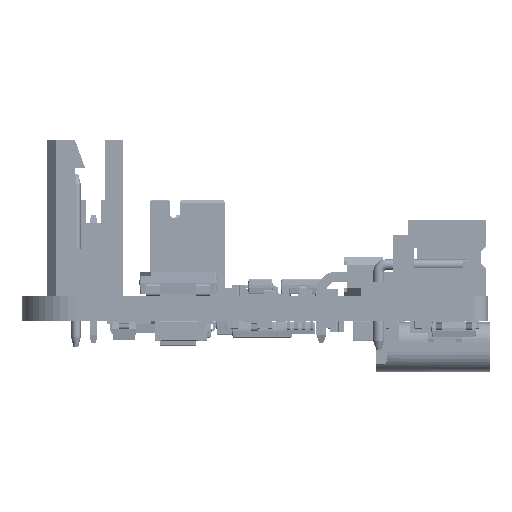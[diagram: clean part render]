
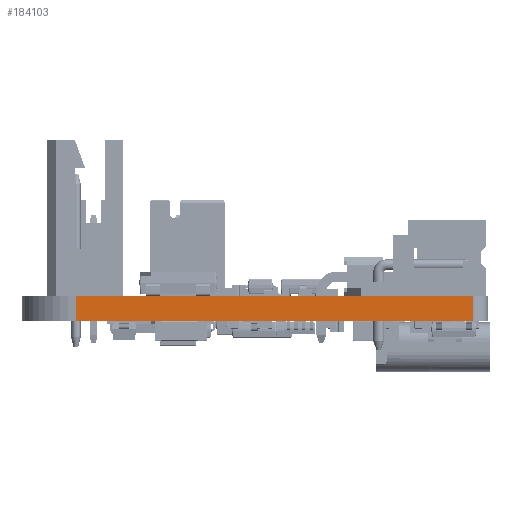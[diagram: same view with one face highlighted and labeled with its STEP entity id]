
A CAD part, left-side view. The second image highlights one B-rep face of the part: STEP entity #184103.
In plain terms, the highlighted planar face has unit normal (-1, 0, 0).
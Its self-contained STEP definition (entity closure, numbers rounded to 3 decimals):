
#10391=PLANE('',#194639);
#16527=FACE_OUTER_BOUND('',#26555,.T.);
#26555=EDGE_LOOP('',(#121563,#121564,#121565,#121566));
#39135=LINE('',#248436,#58085);
#39136=LINE('',#248440,#58086);
#39137=LINE('',#248442,#58087);
#39138=LINE('',#248443,#58088);
#58085=VECTOR('',#206278,1.);
#58086=VECTOR('',#206283,1.);
#58087=VECTOR('',#206284,1.);
#58088=VECTOR('',#206285,1.);
#77034=VERTEX_POINT('',#248433);
#77035=VERTEX_POINT('',#248435);
#77036=VERTEX_POINT('',#248439);
#77037=VERTEX_POINT('',#248441);
#94734=EDGE_CURVE('',#77035,#77034,#39135,.T.);
#94736=EDGE_CURVE('',#77034,#77036,#39136,.T.);
#94737=EDGE_CURVE('',#77037,#77036,#39137,.T.);
#94738=EDGE_CURVE('',#77035,#77037,#39138,.T.);
#121563=ORIENTED_EDGE('',*,*,#94734,.T.);
#121564=ORIENTED_EDGE('',*,*,#94736,.T.);
#121565=ORIENTED_EDGE('',*,*,#94737,.F.);
#121566=ORIENTED_EDGE('',*,*,#94738,.F.);
#184103=ADVANCED_FACE('',(#16527),#10391,.T.);
#194639=AXIS2_PLACEMENT_3D('',#248438,#206281,#206282);
#206278=DIRECTION('',(0.,0.,1.));
#206281=DIRECTION('center_axis',(-1.,0.,0.));
#206282=DIRECTION('ref_axis',(0.,1.,0.));
#206283=DIRECTION('',(0.,1.,0.));
#206284=DIRECTION('',(0.,0.,1.));
#206285=DIRECTION('',(0.,1.,0.));
#248433=CARTESIAN_POINT('',(-19.616,-17.152,1.6));
#248435=CARTESIAN_POINT('',(-19.616,-17.152,0.));
#248436=CARTESIAN_POINT('',(-19.616,-17.152,0.));
#248438=CARTESIAN_POINT('Origin',(-19.616,-17.152,0.));
#248439=CARTESIAN_POINT('',(-19.616,8.346,1.6));
#248440=CARTESIAN_POINT('',(-19.616,-17.152,1.6));
#248441=CARTESIAN_POINT('',(-19.616,8.346,0.));
#248442=CARTESIAN_POINT('',(-19.616,8.346,0.));
#248443=CARTESIAN_POINT('',(-19.616,-17.152,0.));
